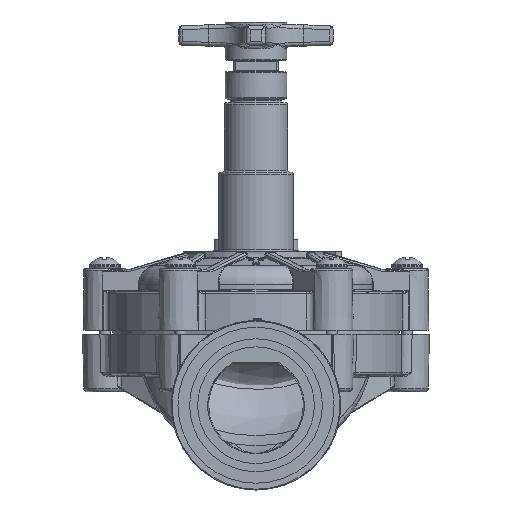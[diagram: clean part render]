
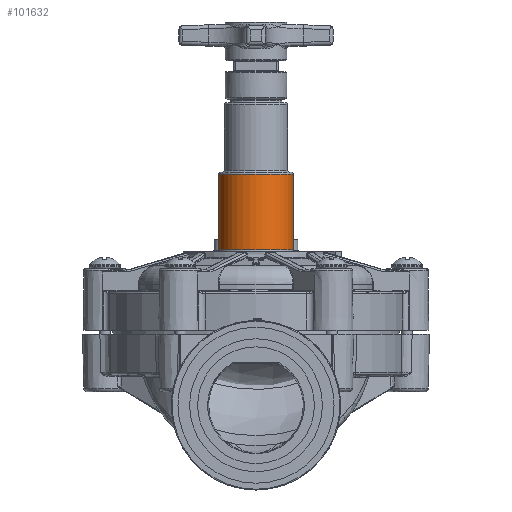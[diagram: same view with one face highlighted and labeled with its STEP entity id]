
A CAD part, left-side view. The second image highlights one B-rep face of the part: STEP entity #101632.
In plain terms, the highlighted cylindrical face has radius 9.65 mm (diameter 19.3 mm), a full revolution.
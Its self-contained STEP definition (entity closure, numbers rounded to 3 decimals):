
#83431=CARTESIAN_POINT('',(0.,-9.65,
20.937));
#83432=VERTEX_POINT('Vertex6064',#83431);
#83433=CARTESIAN_POINT('',(9.65,0.,
20.937));
#83434=VERTEX_POINT('Vertex2223',#83433);
#83435=CARTESIAN_POINT('',(0.,0.,
20.937));
#83436=DIRECTION('',(0.,0.,-1.));
#83437=DIRECTION('',(0.,-1.,0.));
#83438=AXIS2_PLACEMENT_3D('',#83435,#83436,#83437);
#83439=CIRCLE('',#83438,9.65);
#83440=EDGE_CURVE('Edge10043',#83432,#83434,#83439,.T.);
#83442=CARTESIAN_POINT('',(0.,0.,
20.937));
#83443=DIRECTION('',(0.,0.,-1.));
#83444=DIRECTION('',(1.,0.,0.));
#83445=AXIS2_PLACEMENT_3D('',#83442,#83443,#83444);
#83446=CIRCLE('',#83445,9.65);
#83447=EDGE_CURVE('Edge10042',#83434,#83432,#83446,.T.);
#101603=CARTESIAN_POINT('',(0.,-9.65,40.5));
#101604=VERTEX_POINT('Vertex6088',#101603);
#101605=CARTESIAN_POINT('',(9.65,0.,40.5));
#101606=VERTEX_POINT('Vertex2778',#101605);
#101607=CARTESIAN_POINT('',(0.,0.,40.5)
);
#101608=DIRECTION('',(-0.,0.,1.));
#101609=DIRECTION('',(0.,-1.,0.));
#101610=AXIS2_PLACEMENT_3D('',#101607,#101608,#101609);
#101611=CIRCLE('',#101610,9.65);
#101612=EDGE_CURVE('Edge10111',#101604,#101606,#101611,.T.);
#101613=ORIENTED_EDGE('Edgeuse20220',*,*,#101612,.F.);
#101614=CARTESIAN_POINT('',(0.,0.,40.5)
);
#101615=DIRECTION('',(0.,-0.,1.));
#101616=DIRECTION('',(1.,0.,0.));
#101617=AXIS2_PLACEMENT_3D('',#101614,#101615,#101616);
#101618=CIRCLE('',#101617,9.65);
#101619=EDGE_CURVE('Edge10110',#101606,#101604,#101618,.T.);
#101620=ORIENTED_EDGE('Edgeuse20218',*,*,#101619,.F.);
#101621=EDGE_LOOP('',(#101613,#101620));
#101622=FACE_BOUND('',#101621,.T.);
#101623=ORIENTED_EDGE('Edgeuse20081',*,*,#83440,.F.);
#101624=ORIENTED_EDGE('Edgeuse20079',*,*,#83447,.F.);
#101625=EDGE_LOOP('',(#101623,#101624));
#101626=FACE_BOUND('',#101625,.T.);
#101627=CARTESIAN_POINT('',(0.,0.,
19.959));
#101628=DIRECTION('',(0.,0.,1.));
#101629=DIRECTION('',(1.,0.,0.));
#101630=AXIS2_PLACEMENT_3D('',#101627,#101628,#101629);
#101631=CYLINDRICAL_SURFACE('',#101630,9.65);
#101632=ADVANCED_FACE('Face1873',(#101622,#101626),#101631,.T.);
